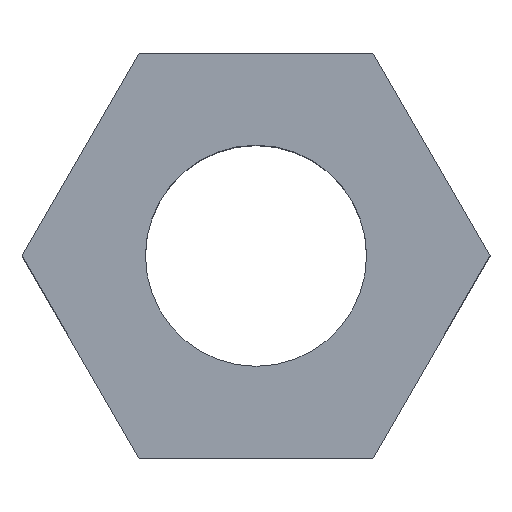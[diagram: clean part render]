
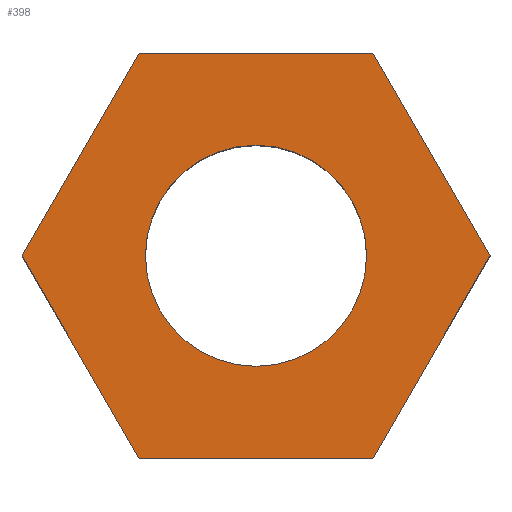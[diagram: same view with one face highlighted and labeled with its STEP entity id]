
A CAD part, top view. The second image highlights one B-rep face of the part: STEP entity #398.
In plain terms, the highlighted planar face has unit normal (0, 0, 1).
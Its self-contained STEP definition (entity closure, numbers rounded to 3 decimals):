
#24 = VERTEX_POINT('',#25);
#25 = CARTESIAN_POINT('',(3.175,0.,4.));
#32 = PLANE('',#33);
#33 = AXIS2_PLACEMENT_3D('',#34,#35,#36);
#34 = CARTESIAN_POINT('',(3.175,0.,0.));
#35 = DIRECTION('',(-0.866,-0.5,0.));
#36 = DIRECTION('',(-0.5,0.866,0.));
#44 = PLANE('',#45);
#45 = AXIS2_PLACEMENT_3D('',#46,#47,#48);
#46 = CARTESIAN_POINT('',(1.588,-2.75,0.));
#47 = DIRECTION('',(-0.866,0.5,0.));
#48 = DIRECTION('',(0.5,0.866,0.));
#56 = EDGE_CURVE('',#24,#57,#59,.T.);
#57 = VERTEX_POINT('',#58);
#58 = CARTESIAN_POINT('',(1.588,2.75,4.));
#59 = SURFACE_CURVE('',#60,(#64,#71),.PCURVE_S1.);
#60 = LINE('',#61,#62);
#61 = CARTESIAN_POINT('',(3.175,0.,4.));
#62 = VECTOR('',#63,1.);
#63 = DIRECTION('',(-0.5,0.866,0.));
#64 = PCURVE('',#32,#65);
#65 = DEFINITIONAL_REPRESENTATION('',(#66),#70);
#66 = LINE('',#67,#68);
#67 = CARTESIAN_POINT('',(0.,-4.));
#68 = VECTOR('',#69,1.);
#69 = DIRECTION('',(1.,0.));
#70 = ( GEOMETRIC_REPRESENTATION_CONTEXT(2) 
PARAMETRIC_REPRESENTATION_CONTEXT() REPRESENTATION_CONTEXT('2D SPACE',''
  ) );
#71 = PCURVE('',#72,#77);
#72 = PLANE('',#73);
#73 = AXIS2_PLACEMENT_3D('',#74,#75,#76);
#74 = CARTESIAN_POINT('',(0.,0.,4.));
#75 = DIRECTION('',(0.,0.,1.));
#76 = DIRECTION('',(1.,0.,-0.));
#77 = DEFINITIONAL_REPRESENTATION('',(#78),#82);
#78 = LINE('',#79,#80);
#79 = CARTESIAN_POINT('',(3.175,0.));
#80 = VECTOR('',#81,1.);
#81 = DIRECTION('',(-0.5,0.866));
#82 = ( GEOMETRIC_REPRESENTATION_CONTEXT(2) 
PARAMETRIC_REPRESENTATION_CONTEXT() REPRESENTATION_CONTEXT('2D SPACE',''
  ) );
#100 = PLANE('',#101);
#101 = AXIS2_PLACEMENT_3D('',#102,#103,#104);
#102 = CARTESIAN_POINT('',(1.588,2.75,0.));
#103 = DIRECTION('',(0.,-1.,0.));
#104 = DIRECTION('',(-1.,0.,0.));
#144 = VERTEX_POINT('',#145);
#145 = CARTESIAN_POINT('',(1.588,-2.75,4.));
#159 = PLANE('',#160);
#160 = AXIS2_PLACEMENT_3D('',#161,#162,#163);
#161 = CARTESIAN_POINT('',(-1.588,-2.75,0.));
#162 = DIRECTION('',(0.,1.,-0.));
#163 = DIRECTION('',(1.,0.,0.));
#171 = EDGE_CURVE('',#144,#24,#172,.T.);
#172 = SURFACE_CURVE('',#173,(#177,#184),.PCURVE_S1.);
#173 = LINE('',#174,#175);
#174 = CARTESIAN_POINT('',(1.588,-2.75,4.));
#175 = VECTOR('',#176,1.);
#176 = DIRECTION('',(0.5,0.866,0.));
#177 = PCURVE('',#44,#178);
#178 = DEFINITIONAL_REPRESENTATION('',(#179),#183);
#179 = LINE('',#180,#181);
#180 = CARTESIAN_POINT('',(0.,-4.));
#181 = VECTOR('',#182,1.);
#182 = DIRECTION('',(1.,0.));
#183 = ( GEOMETRIC_REPRESENTATION_CONTEXT(2) 
PARAMETRIC_REPRESENTATION_CONTEXT() REPRESENTATION_CONTEXT('2D SPACE',''
  ) );
#184 = PCURVE('',#72,#185);
#185 = DEFINITIONAL_REPRESENTATION('',(#186),#190);
#186 = LINE('',#187,#188);
#187 = CARTESIAN_POINT('',(1.588,-2.75));
#188 = VECTOR('',#189,1.);
#189 = DIRECTION('',(0.5,0.866));
#190 = ( GEOMETRIC_REPRESENTATION_CONTEXT(2) 
PARAMETRIC_REPRESENTATION_CONTEXT() REPRESENTATION_CONTEXT('2D SPACE',''
  ) );
#218 = EDGE_CURVE('',#57,#219,#221,.T.);
#219 = VERTEX_POINT('',#220);
#220 = CARTESIAN_POINT('',(-1.588,2.75,4.));
#221 = SURFACE_CURVE('',#222,(#226,#233),.PCURVE_S1.);
#222 = LINE('',#223,#224);
#223 = CARTESIAN_POINT('',(1.588,2.75,4.));
#224 = VECTOR('',#225,1.);
#225 = DIRECTION('',(-1.,0.,0.));
#226 = PCURVE('',#100,#227);
#227 = DEFINITIONAL_REPRESENTATION('',(#228),#232);
#228 = LINE('',#229,#230);
#229 = CARTESIAN_POINT('',(0.,-4.));
#230 = VECTOR('',#231,1.);
#231 = DIRECTION('',(1.,0.));
#232 = ( GEOMETRIC_REPRESENTATION_CONTEXT(2) 
PARAMETRIC_REPRESENTATION_CONTEXT() REPRESENTATION_CONTEXT('2D SPACE',''
  ) );
#233 = PCURVE('',#72,#234);
#234 = DEFINITIONAL_REPRESENTATION('',(#235),#239);
#235 = LINE('',#236,#237);
#236 = CARTESIAN_POINT('',(1.588,2.75));
#237 = VECTOR('',#238,1.);
#238 = DIRECTION('',(-1.,0.));
#239 = ( GEOMETRIC_REPRESENTATION_CONTEXT(2) 
PARAMETRIC_REPRESENTATION_CONTEXT() REPRESENTATION_CONTEXT('2D SPACE',''
  ) );
#257 = PLANE('',#258);
#258 = AXIS2_PLACEMENT_3D('',#259,#260,#261);
#259 = CARTESIAN_POINT('',(-1.588,2.75,0.));
#260 = DIRECTION('',(0.866,-0.5,0.));
#261 = DIRECTION('',(-0.5,-0.866,0.));
#334 = PLANE('',#335);
#335 = AXIS2_PLACEMENT_3D('',#336,#337,#338);
#336 = CARTESIAN_POINT('',(-3.175,0.,0.));
#337 = DIRECTION('',(0.866,0.5,-0.));
#338 = DIRECTION('',(0.5,-0.866,0.));
#387 = CYLINDRICAL_SURFACE('',#388,1.5);
#388 = AXIS2_PLACEMENT_3D('',#389,#390,#391);
#389 = CARTESIAN_POINT('',(0.,0.,-1.));
#390 = DIRECTION('',(0.,0.,1.));
#391 = DIRECTION('',(1.,0.,-0.));
#398 = ADVANCED_FACE('',(#399,#471),#72,.T.);
#399 = FACE_BOUND('',#400,.T.);
#400 = EDGE_LOOP('',(#401,#402,#403,#426,#449,#470));
#401 = ORIENTED_EDGE('',*,*,#56,.T.);
#402 = ORIENTED_EDGE('',*,*,#218,.T.);
#403 = ORIENTED_EDGE('',*,*,#404,.T.);
#404 = EDGE_CURVE('',#219,#405,#407,.T.);
#405 = VERTEX_POINT('',#406);
#406 = CARTESIAN_POINT('',(-3.175,0.,4.));
#407 = SURFACE_CURVE('',#408,(#412,#419),.PCURVE_S1.);
#408 = LINE('',#409,#410);
#409 = CARTESIAN_POINT('',(-1.588,2.75,4.));
#410 = VECTOR('',#411,1.);
#411 = DIRECTION('',(-0.5,-0.866,0.));
#412 = PCURVE('',#72,#413);
#413 = DEFINITIONAL_REPRESENTATION('',(#414),#418);
#414 = LINE('',#415,#416);
#415 = CARTESIAN_POINT('',(-1.588,2.75));
#416 = VECTOR('',#417,1.);
#417 = DIRECTION('',(-0.5,-0.866));
#418 = ( GEOMETRIC_REPRESENTATION_CONTEXT(2) 
PARAMETRIC_REPRESENTATION_CONTEXT() REPRESENTATION_CONTEXT('2D SPACE',''
  ) );
#419 = PCURVE('',#257,#420);
#420 = DEFINITIONAL_REPRESENTATION('',(#421),#425);
#421 = LINE('',#422,#423);
#422 = CARTESIAN_POINT('',(0.,-4.));
#423 = VECTOR('',#424,1.);
#424 = DIRECTION('',(1.,0.));
#425 = ( GEOMETRIC_REPRESENTATION_CONTEXT(2) 
PARAMETRIC_REPRESENTATION_CONTEXT() REPRESENTATION_CONTEXT('2D SPACE',''
  ) );
#426 = ORIENTED_EDGE('',*,*,#427,.T.);
#427 = EDGE_CURVE('',#405,#428,#430,.T.);
#428 = VERTEX_POINT('',#429);
#429 = CARTESIAN_POINT('',(-1.588,-2.75,4.));
#430 = SURFACE_CURVE('',#431,(#435,#442),.PCURVE_S1.);
#431 = LINE('',#432,#433);
#432 = CARTESIAN_POINT('',(-3.175,0.,4.));
#433 = VECTOR('',#434,1.);
#434 = DIRECTION('',(0.5,-0.866,0.));
#435 = PCURVE('',#72,#436);
#436 = DEFINITIONAL_REPRESENTATION('',(#437),#441);
#437 = LINE('',#438,#439);
#438 = CARTESIAN_POINT('',(-3.175,0.));
#439 = VECTOR('',#440,1.);
#440 = DIRECTION('',(0.5,-0.866));
#441 = ( GEOMETRIC_REPRESENTATION_CONTEXT(2) 
PARAMETRIC_REPRESENTATION_CONTEXT() REPRESENTATION_CONTEXT('2D SPACE',''
  ) );
#442 = PCURVE('',#334,#443);
#443 = DEFINITIONAL_REPRESENTATION('',(#444),#448);
#444 = LINE('',#445,#446);
#445 = CARTESIAN_POINT('',(0.,-4.));
#446 = VECTOR('',#447,1.);
#447 = DIRECTION('',(1.,0.));
#448 = ( GEOMETRIC_REPRESENTATION_CONTEXT(2) 
PARAMETRIC_REPRESENTATION_CONTEXT() REPRESENTATION_CONTEXT('2D SPACE',''
  ) );
#449 = ORIENTED_EDGE('',*,*,#450,.T.);
#450 = EDGE_CURVE('',#428,#144,#451,.T.);
#451 = SURFACE_CURVE('',#452,(#456,#463),.PCURVE_S1.);
#452 = LINE('',#453,#454);
#453 = CARTESIAN_POINT('',(-1.588,-2.75,4.));
#454 = VECTOR('',#455,1.);
#455 = DIRECTION('',(1.,0.,0.));
#456 = PCURVE('',#72,#457);
#457 = DEFINITIONAL_REPRESENTATION('',(#458),#462);
#458 = LINE('',#459,#460);
#459 = CARTESIAN_POINT('',(-1.588,-2.75));
#460 = VECTOR('',#461,1.);
#461 = DIRECTION('',(1.,0.));
#462 = ( GEOMETRIC_REPRESENTATION_CONTEXT(2) 
PARAMETRIC_REPRESENTATION_CONTEXT() REPRESENTATION_CONTEXT('2D SPACE',''
  ) );
#463 = PCURVE('',#159,#464);
#464 = DEFINITIONAL_REPRESENTATION('',(#465),#469);
#465 = LINE('',#466,#467);
#466 = CARTESIAN_POINT('',(0.,-4.));
#467 = VECTOR('',#468,1.);
#468 = DIRECTION('',(1.,0.));
#469 = ( GEOMETRIC_REPRESENTATION_CONTEXT(2) 
PARAMETRIC_REPRESENTATION_CONTEXT() REPRESENTATION_CONTEXT('2D SPACE',''
  ) );
#470 = ORIENTED_EDGE('',*,*,#171,.T.);
#471 = FACE_BOUND('',#472,.T.);
#472 = EDGE_LOOP('',(#473));
#473 = ORIENTED_EDGE('',*,*,#474,.F.);
#474 = EDGE_CURVE('',#475,#475,#477,.T.);
#475 = VERTEX_POINT('',#476);
#476 = CARTESIAN_POINT('',(1.5,0.,4.));
#477 = SURFACE_CURVE('',#478,(#483,#490),.PCURVE_S1.);
#478 = CIRCLE('',#479,1.5);
#479 = AXIS2_PLACEMENT_3D('',#480,#481,#482);
#480 = CARTESIAN_POINT('',(0.,0.,4.));
#481 = DIRECTION('',(0.,0.,1.));
#482 = DIRECTION('',(1.,0.,-0.));
#483 = PCURVE('',#72,#484);
#484 = DEFINITIONAL_REPRESENTATION('',(#485),#489);
#485 = CIRCLE('',#486,1.5);
#486 = AXIS2_PLACEMENT_2D('',#487,#488);
#487 = CARTESIAN_POINT('',(0.,0.));
#488 = DIRECTION('',(1.,0.));
#489 = ( GEOMETRIC_REPRESENTATION_CONTEXT(2) 
PARAMETRIC_REPRESENTATION_CONTEXT() REPRESENTATION_CONTEXT('2D SPACE',''
  ) );
#490 = PCURVE('',#387,#491);
#491 = DEFINITIONAL_REPRESENTATION('',(#492),#496);
#492 = LINE('',#493,#494);
#493 = CARTESIAN_POINT('',(0.,5.));
#494 = VECTOR('',#495,1.);
#495 = DIRECTION('',(1.,0.));
#496 = ( GEOMETRIC_REPRESENTATION_CONTEXT(2) 
PARAMETRIC_REPRESENTATION_CONTEXT() REPRESENTATION_CONTEXT('2D SPACE',''
  ) );
